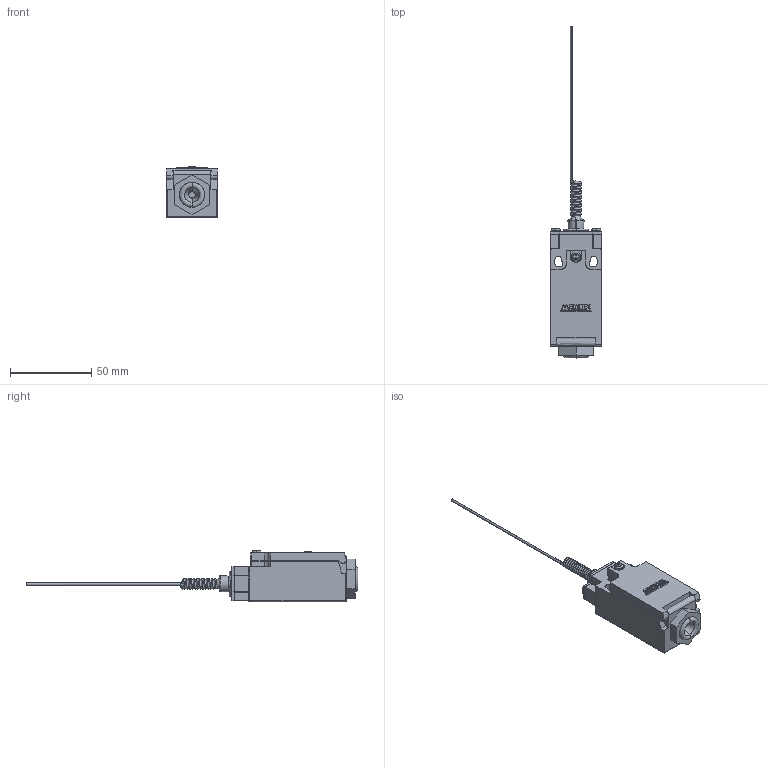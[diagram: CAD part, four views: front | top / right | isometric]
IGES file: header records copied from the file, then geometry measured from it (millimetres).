
Start section: SolidWorks IGES file using analytic representation for surfaces
Global section: file name: D:\X - Arquivos\PROEX\Empresas\P11 - METALTEX\01 - Produtos\IGES\4ª remessa\5ª etapa\FM9269.IGS; native system: SolidWorks 2012; preprocessor: SolidWorks 2012; author: Usuario; date: 180601.140053; units: millimetre
Bounding box: 31.5 x 204.54 x 31.5 mm (x, y, z)
Surface area: 13960.5 mm2 (no closed solid volume)
Topology: 0 solids, 0 shells, 342 faces, 2634 edges, 2630 vertices
Faces by surface type: bspline 272, revolution 70
